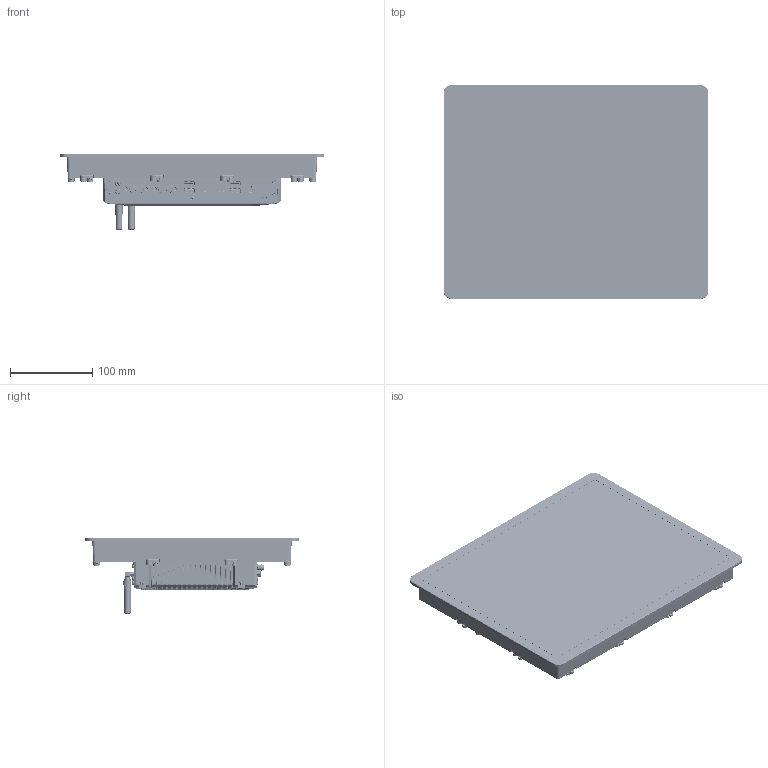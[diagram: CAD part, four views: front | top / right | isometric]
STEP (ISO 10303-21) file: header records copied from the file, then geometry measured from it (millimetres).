
FILE_DESCRIPTION (( 'STEP AP203' ), '1' );
FILE_NAME ('TPC22121-J6400K-8G-128G.STEP', '2026-01-05T02:58:07', ( '' ), ( '' ), 'SwSTEP 2.0', 'SolidWorks 2018', '' );
FILE_SCHEMA (( 'CONFIG_CONTROL_DESIGN' ));
Products named in the file (1): TPC22121-J6400K-8G-128G
Bounding box: 321 x 260 x 92.28 mm (x, y, z)
Surface area: 496620.9 mm2 (no closed solid volume)
Topology: 0 solids, 176 shells, 14188 faces, 35926 edges, 22003 vertices
Faces by surface type: plane 5840, cylinder 5276, bspline 1962, torus 503, cone 361, sphere 246
Entity records: 574700 total; most frequent: CARTESIAN_POINT 261427, ORIENTED_EDGE 70690, DIRECTION 57362, EDGE_CURVE 35418, VERTEX_POINT 21975, AXIS2_PLACEMENT_3D 19822, VECTOR 17718, LINE 17718
